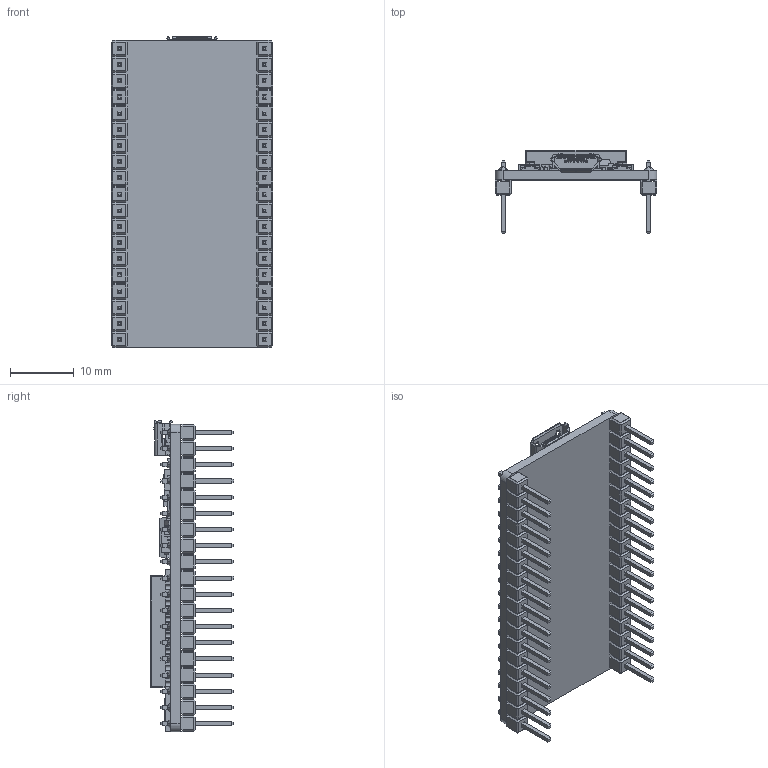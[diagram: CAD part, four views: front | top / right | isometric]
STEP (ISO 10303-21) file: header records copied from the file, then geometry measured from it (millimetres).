
FILE_DESCRIPTION (( 'STEP AP214' ), '1' );
FILE_NAME ('NODEMCU-32S.STEP', '2023-11-15T02:09:09', ( '' ), ( '' ), 'SwSTEP 2.0', 'SolidWorks 2021', '' );
FILE_SCHEMA (( 'AUTOMOTIVE_DESIGN' ));
Length unit declared in the file: millimetre
Products named in the file (1): NODEMCU-32S
Bounding box: 25.4 x 13.05 x 48.91 mm (x, y, z)
Volume: 2988.4 mm3; surface area: 8814.6 mm2
Topology: 284 solids, 284 shells, 5157 faces, 12219 edges, 7672 vertices
Faces by surface type: plane 4277, cylinder 758, torus 91, bspline 17, cone 14
Entity records: 183239 total; most frequent: CARTESIAN_POINT 27540, ORIENTED_EDGE 24438, DIRECTION 23730, EDGE_CURVE 12219, LINE 10224, VECTOR 10224, VERTEX_POINT 7672, AXIS2_PLACEMENT_3D 6753
